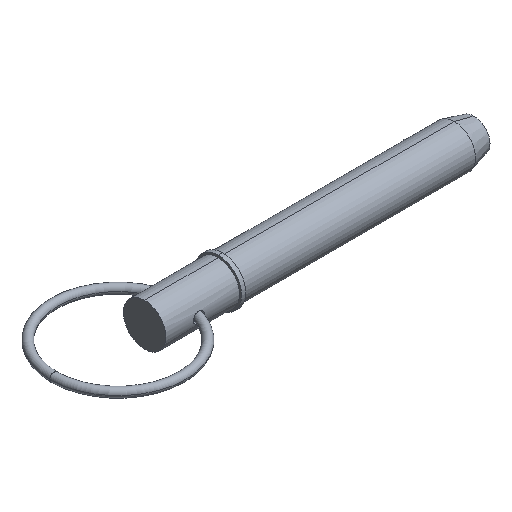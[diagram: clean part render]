
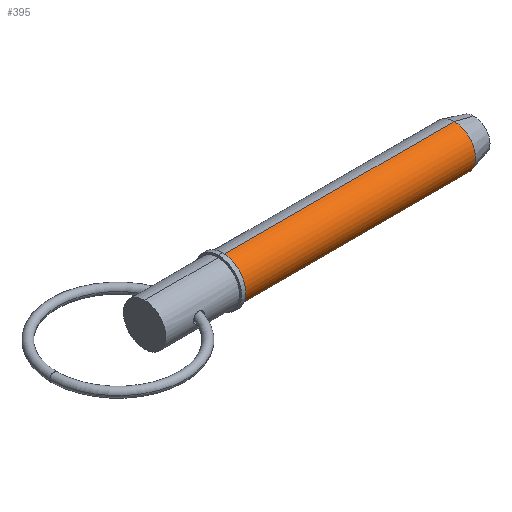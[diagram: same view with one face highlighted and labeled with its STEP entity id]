
A CAD part, isometric view. The second image highlights one B-rep face of the part: STEP entity #395.
In plain terms, the highlighted cylindrical face has radius 9.525 mm (diameter 19.05 mm), a partial arc.
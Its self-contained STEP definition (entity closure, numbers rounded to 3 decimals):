
#9 = CIRCLE ( 'NONE', #26, 9.525 ) ;
#16 = EDGE_CURVE ( 'NONE', #307, #900, #532, .T. ) ;
#26 = AXIS2_PLACEMENT_3D ( 'NONE', #225, #83, #817 ) ;
#83 = DIRECTION ( 'NONE',  ( 1., 0., 0. ) ) ;
#88 = VERTEX_POINT ( 'NONE', #282 ) ;
#91 = CARTESIAN_POINT ( 'NONE',  ( 0., 0., 0. ) ) ;
#114 = CARTESIAN_POINT ( 'NONE',  ( 138.743, 0., -9.525 ) ) ;
#154 = EDGE_CURVE ( 'NONE', #88, #900, #980, .T. ) ;
#200 = DIRECTION ( 'NONE',  ( 1., 0., 0. ) ) ;
#225 = CARTESIAN_POINT ( 'NONE',  ( 34.93, 0., 0. ) ) ;
#282 = CARTESIAN_POINT ( 'NONE',  ( 138.743, 0., 9.525 ) ) ;
#307 = VERTEX_POINT ( 'NONE', #476 ) ;
#339 = CYLINDRICAL_SURFACE ( 'NONE', #857, 9.525 ) ;
#348 = VECTOR ( 'NONE', #950, 1000. ) ;
#380 = EDGE_LOOP ( 'NONE', ( #997, #723, #510, #778 ) ) ;
#395 = ADVANCED_FACE ( 'NONE', ( #836 ), #339, .T. ) ;
#410 = DIRECTION ( 'NONE',  ( 0., 0., -1. ) ) ;
#437 = VERTEX_POINT ( 'NONE', #452 ) ;
#452 = CARTESIAN_POINT ( 'NONE',  ( 34.93, 0., 9.525 ) ) ;
#463 = EDGE_CURVE ( 'NONE', #437, #88, #801, .T. ) ;
#465 = CARTESIAN_POINT ( 'NONE',  ( 0., 0., 9.525 ) ) ;
#476 = CARTESIAN_POINT ( 'NONE',  ( 34.93, 0., -9.525 ) ) ;
#510 = ORIENTED_EDGE ( 'NONE', *, *, #16, .T. ) ;
#513 = DIRECTION ( 'NONE',  ( 1., 0., 0. ) ) ;
#532 = LINE ( 'NONE', #703, #348 ) ;
#571 = EDGE_CURVE ( 'NONE', #437, #307, #9, .T. ) ;
#579 = VECTOR ( 'NONE', #200, 1000. ) ;
#698 = AXIS2_PLACEMENT_3D ( 'NONE', #1056, #977, #410 ) ;
#703 = CARTESIAN_POINT ( 'NONE',  ( 0., 0., -9.525 ) ) ;
#723 = ORIENTED_EDGE ( 'NONE', *, *, #571, .T. ) ;
#778 = ORIENTED_EDGE ( 'NONE', *, *, #154, .F. ) ;
#801 = LINE ( 'NONE', #465, #579 ) ;
#817 = DIRECTION ( 'NONE',  ( 0., 0., -1. ) ) ;
#836 = FACE_OUTER_BOUND ( 'NONE', #380, .T. ) ;
#854 = DIRECTION ( 'NONE',  ( 0., 0., -1. ) ) ;
#857 = AXIS2_PLACEMENT_3D ( 'NONE', #91, #513, #854 ) ;
#900 = VERTEX_POINT ( 'NONE', #114 ) ;
#950 = DIRECTION ( 'NONE',  ( 1., 0., 0. ) ) ;
#977 = DIRECTION ( 'NONE',  ( 1., 0., 0. ) ) ;
#980 = CIRCLE ( 'NONE', #698, 9.525 ) ;
#997 = ORIENTED_EDGE ( 'NONE', *, *, #463, .F. ) ;
#1056 = CARTESIAN_POINT ( 'NONE',  ( 138.743, 0., 0. ) ) ;
